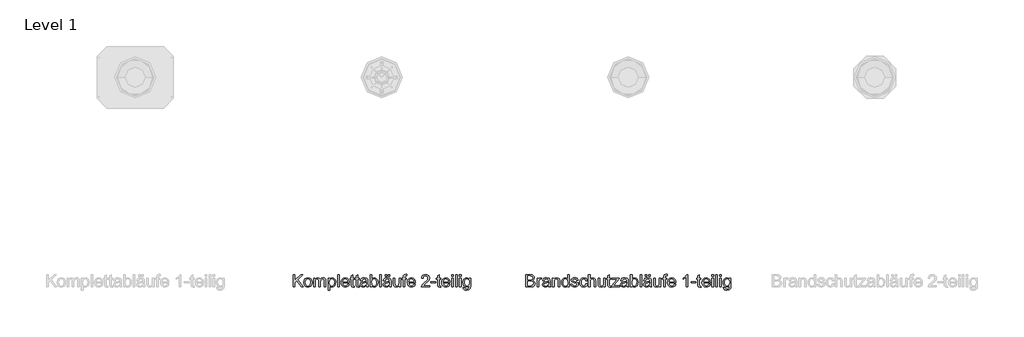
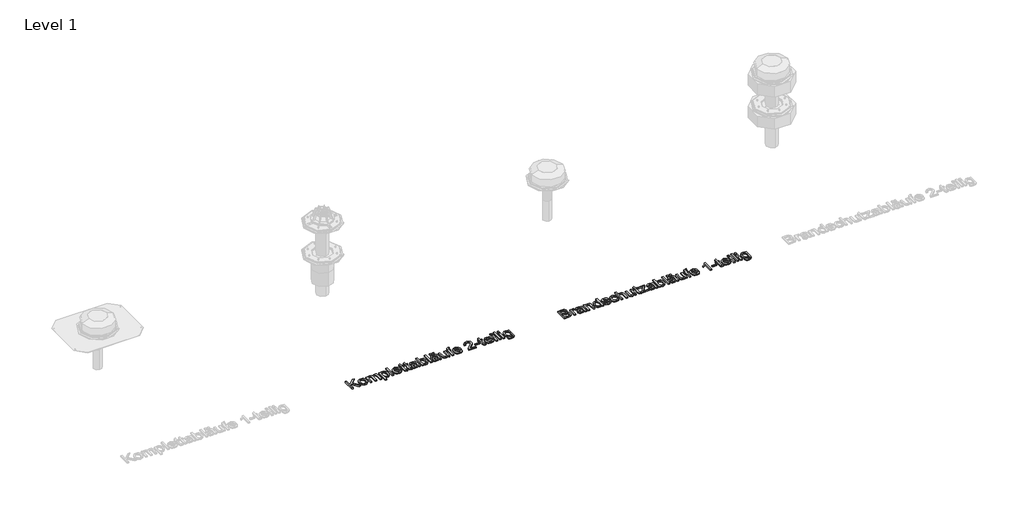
# One storey, part 2 of 4: 2 proxies.
"""IFC4 building model written with IfcOpenShell, lengths in millimetres."""

from ifc_helpers import new_model, si_unit, origin, origin_with_axes, place, context, project, spatial, polyline, outline, extrude, element, save

model = new_model("IFC4")

# Units and contexts
model_context = context("Model", 3, world=origin())
ifc_project = project(units=[si_unit("LENGTHUNIT", "METRE", prefix="MILLI")], contexts=[model_context])

# Site, building, storey
site = spatial("IfcSite", under=ifc_project)
building = spatial("IfcBuilding", under=site)
storey = spatial("IfcBuildingStorey", under=building, Name="Level 1", Elevation=0.0)

# Proxies
placement = place(None, origin())
element("IfcBuildingElementProxy", 1, Name="100mm ACO", ObjectType="100mm ACO", at=placement, inside=storey, context=model_context, shape_type="SweptSolid", body=[
    extrude(outline(polyline([(2862.5, -700.0), (2846.9618056, -700.0), (2810.0405093, -648.8136574), (2793.5185185, -664.8148148), (2793.5185185, -700.0), (2780.5555556, -700.0), (2780.5555556, -600.0), (2793.5185185, -600.0), (2793.5185185, -647.8009259), (2842.8819444, -600.0), (2860.474537, -600.0), (2819.212963, -639.9305556), (2862.5, -700.0)])), origin_with_axes(), (0.0, 0.0, 1.0), 10.0),
    extrude(outline(polyline([(2900.8969907, -625.9259259), (2914.0733507, -628.3203125), (2924.7829861, -635.5034722), (2931.890191, -647.0992477), (2934.2592593, -662.7314815), (2931.6948785, -681.0040509), (2924.0017361, -692.9976852), (2913.0967882, -699.6383102), (2900.8969907, -701.8518519), (2888.3065683, -699.5768229), (2877.5028935, -692.7517361), (2870.0701678, -680.9859664), (2867.5925926, -663.8888889), (2869.9869792, -647.1715856), (2877.1701389, -635.3298611), (2887.890625, -628.2769097), (2900.8969907, -625.9259259)]), holes=[polyline([(2900.8969907, -692.5925926), (2909.7041377, -690.5852141), (2916.1024306, -684.5630787), (2921.2962963, -663.4259259), (2919.8278356, -651.1429398), (2915.4224537, -642.3032407), (2908.8541667, -636.9646991), (2900.8969907, -635.1851852), (2892.7842882, -636.9900174), (2886.2702546, -642.4045139), (2881.9842303, -651.3925058), (2880.5555556, -663.9178241), (2882.0095486, -676.3997396), (2886.3715278, -685.3732639), (2892.9108796, -690.7877604), (2900.8969907, -692.5925926)])]), origin_with_axes(), (0.0, 0.0, 1.0), 10.0),
    extrude(outline(polyline([(3045.3703704, -700.0), (3032.4074074, -700.0), (3032.4074074, -653.2986111), (3031.7563657, -644.4878472), (3028.3709491, -638.0063657), (3019.849537, -635.1851852), (3007.8414352, -640.3356481), (3004.0436921, -647.0920139), (3002.7777778, -657.0601852), (3002.7777778, -700.0), (2989.8148148, -700.0), (2989.8148148, -651.9097222), (2986.6319444, -638.744213), (2977.6041667, -635.1851852), (2965.0752315, -640.7552083), (2961.4076968, -648.7521701), (2960.1851852, -661.6030093), (2960.1851852, -700.0), (2947.2222222, -700.0), (2947.2222222, -627.7777778), (2958.3333333, -627.7777778), (2958.3333333, -637.6736111), (2967.7155671, -628.8628472), (2980.2662037, -625.9259259), (2993.4461806, -629.0943287), (3000.9259259, -638.6284722), (3010.4456019, -629.1015625), (3023.0324074, -625.9259259), (3032.8052662, -627.4450231), (3039.7858796, -632.0023148), (3043.9742477, -639.5978009), (3045.3703704, -650.2314815), (3045.3703704, -700.0)])), origin_with_axes(), (0.0, 0.0, 1.0), 10.0),
    extrude(outline(polyline([(3076.9820602, -636.4872685), (3085.4383681, -628.5662616), (3097.1064815, -625.9259259), (3109.4328704, -628.515625), (3118.8657407, -636.2847222), (3124.8553241, -648.2132523), (3126.8518519, -663.28125), (3124.5949074, -679.1702836), (3117.8240741, -691.4207176), (3107.7690972, -699.2440683), (3095.6597222, -701.8518519), (3085.2864583, -699.7251157), (3077.1990741, -693.3449074), (3076.8518519, -727.7777778), (3063.8888889, -727.7777778), (3063.8888889, -627.7777778), (3076.8518519, -627.7777778), (3076.9820602, -636.4872685)]), holes=[polyline([(3094.2418981, -692.5925926), (3102.0146123, -690.766059), (3108.3188657, -685.2864583), (3112.4963831, -676.1899595), (3113.8888889, -663.5127315), (3112.5470197, -651.4359086), (3108.521412, -642.5202546), (3102.4052373, -637.0189525), (3094.7916667, -635.1851852), (3086.9104456, -637.2287326), (3080.5700231, -643.359375), (3076.3925058, -652.7452257), (3075.0, -664.5543981), (3076.3346354, -676.66739), (3080.3385417, -685.4600694), (3086.4836516, -690.8094618), (3094.2418981, -692.5925926)])]), origin_with_axes(), (0.0, 0.0, 1.0), 10.0),
    extrude(outline(polyline([(3154.6296296, -700.0), (3141.6666667, -700.0), (3141.6666667, -600.0), (3154.6296296, -600.0), (3154.6296296, -700.0)])), origin_with_axes(), (0.0, 0.0, 1.0), 10.0),
    extrude(outline(polyline([(3236.1111111, -666.6666667), (3182.4074074, -666.6666667), (3184.47989, -677.7922454), (3189.1927083, -685.9375), (3195.9743924, -690.9288194), (3204.2534722, -692.5925926), (3215.9288194, -688.9033565), (3223.1481481, -677.7777778), (3236.1111111, -679.2824074), (3231.7346644, -688.9033565), (3224.7974537, -696.0069444), (3215.552662, -700.390625), (3204.2534722, -701.8518519), (3189.666522, -699.3453414), (3178.6603009, -691.8258102), (3171.7484086, -679.9660012), (3169.4444444, -664.4386574), (3171.6652199, -648.900463), (3178.3275463, -636.6030093), (3189.026331, -628.5951968), (3203.3564815, -625.9259259), (3218.5763889, -629.3836806), (3231.0040509, -641.1603009), (3234.8343461, -651.6963252), (3236.1111111, -666.6666667)]), holes=[polyline([(3223.1481481, -657.4074074), (3221.0648148, -647.2511574), (3216.3194444, -640.3935185), (3203.0381944, -635.1851852), (3195.1822917, -636.7332176), (3188.8599537, -641.3773148), (3182.4074074, -657.4074074), (3223.1481481, -657.4074074)])]), origin_with_axes(), (0.0, 0.0, 1.0), 10.0),
    extrude(outline(polyline([(3278.7037037, -701.0127315), (3269.6180556, -701.8518519), (3258.0295139, -698.9728009), (3253.587963, -691.6666667), (3252.7777778, -679.3402778), (3252.7777778, -637.037037), (3243.5185185, -637.037037), (3243.5185185, -627.7777778), (3252.7777778, -627.7777778), (3252.7777778, -609.4328704), (3265.7407407, -601.8518519), (3265.7407407, -627.7777778), (3276.8518519, -627.7777778), (3276.8518519, -637.037037), (3265.7407407, -637.037037), (3265.7407407, -681.9444444), (3266.7824074, -690.162037), (3272.0775463, -692.5925926), (3277.1122685, -692.5925926), (3278.7037037, -701.0127315)])), origin_with_axes(), (0.0, 0.0, 1.0), 10.0),
    extrude(outline(polyline([(3317.5925926, -701.0127315), (3308.5069444, -701.8518519), (3296.9184028, -698.9728009), (3292.4768519, -691.6666667), (3291.6666667, -679.3402778), (3291.6666667, -637.037037), (3282.4074074, -637.037037), (3282.4074074, -627.7777778), (3291.6666667, -627.7777778), (3291.6666667, -609.4328704), (3304.6296296, -601.8518519), (3304.6296296, -627.7777778), (3315.7407407, -627.7777778), (3315.7407407, -637.037037), (3304.6296296, -637.037037), (3304.6296296, -681.9444444), (3305.6712963, -690.162037), (3310.9664352, -692.5925926), (3316.0011574, -692.5925926), (3317.5925926, -701.0127315)])), origin_with_axes(), (0.0, 0.0, 1.0), 10.0),
    extrude(outline(polyline([(3391.6666667, -700.0), (3378.7037037, -700.0), (3375.0, -691.2615741), (3362.5072338, -699.2042824), (3349.0451389, -701.8518519), (3339.0588831, -700.4050926), (3331.4380787, -696.0648148), (3326.6095197, -689.3518519), (3325.0, -680.787037), (3326.5769676, -672.479022), (3331.3078704, -665.7841435), (3339.9377894, -660.8904803), (3353.2118056, -657.9861111), (3364.5543981, -656.25), (3375.0, -653.7037037), (3374.6672454, -645.6741898), (3372.728588, -640.7986111), (3367.5636574, -636.7332176), (3357.9861111, -635.1851852), (3345.9056713, -638.3246528), (3339.8148148, -650.0), (3326.8518519, -648.4085648), (3330.4072627, -638.599537), (3337.0804398, -631.568287), (3346.8641493, -627.3365162), (3359.7511574, -625.9259259), (3379.0075231, -629.7887731), (3386.5596065, -639.1059028), (3387.962963, -653.1539352), (3387.962963, -669.6759259), (3388.5127315, -689.9305556), (3391.6666667, -700.0)]), holes=[polyline([(3375.0, -667.5925926), (3375.0, -662.962963), (3351.7216435, -668.287037), (3341.4026331, -672.3451968), (3337.962963, -680.5844907), (3341.6666667, -689.2071759), (3352.34375, -692.5925926), (3368.1568287, -686.9212963), (3373.2892072, -679.2534722), (3375.0, -667.5925926)])]), origin_with_axes(), (0.0, 0.0, 1.0), 10.0),
    extrude(outline(polyline([(3419.6180556, -634.9247685), (3427.9803241, -628.1756366), (3439.0625, -625.9259259), (3451.4865451, -628.4722222), (3461.1545139, -636.1111111), (3467.3719618, -647.8587963), (3469.4444444, -662.7314815), (3467.1657986, -679.4668692), (3460.3298611, -691.7679398), (3450.4412616, -699.3308738), (3439.0046296, -701.8518519), (3427.9875579, -699.3778935), (3419.7048611, -691.9560185), (3419.4444444, -700.0), (3406.4814815, -700.0), (3406.4814815, -600.0), (3419.4444444, -600.0), (3419.6180556, -634.9247685)]), holes=[polyline([(3437.7893519, -692.5925926), (3445.20761, -690.7009549), (3451.2008102, -685.0260417), (3455.1613137, -675.9295428), (3456.4814815, -663.7731481), (3451.6203704, -642.896412), (3445.8333333, -637.1129919), (3438.1944444, -635.1851852), (3430.5700231, -637.1744792), (3424.5949074, -643.1423611), (3419.4444444, -663.28125), (3421.5856481, -680.2372685), (3428.0381944, -688.9322917), (3437.7893519, -692.5925926)])]), origin_with_axes(), (0.0, 0.0, 1.0), 10.0),
    extrude(outline(polyline([(3497.2222222, -700.0), (3484.2592593, -700.0), (3484.2592593, -600.0), (3497.2222222, -600.0), (3497.2222222, -700.0)])), origin_with_axes(), (0.0, 0.0, 1.0), 10.0),
    extrude(outline(polyline([(3578.7037037, -700.0), (3565.7407407, -700.0), (3562.037037, -691.2615741), (3549.5442708, -699.2042824), (3536.0821759, -701.8518519), (3526.0959201, -700.4050926), (3518.4751157, -696.0648148), (3513.6465567, -689.3518519), (3512.037037, -680.787037), (3513.6140046, -672.479022), (3518.3449074, -665.7841435), (3526.9748264, -660.8904803), (3540.2488426, -657.9861111), (3551.5914352, -656.25), (3562.037037, -653.7037037), (3561.7042824, -645.6741898), (3559.765625, -640.7986111), (3554.6006944, -636.7332176), (3545.0231481, -635.1851852), (3532.9427083, -638.3246528), (3526.8518519, -650.0), (3513.8888889, -648.4085648), (3517.4442998, -638.599537), (3524.1174769, -631.568287), (3533.9011863, -627.3365162), (3546.7881944, -625.9259259), (3566.0445602, -629.7887731), (3573.5966435, -639.1059028), (3575.0, -653.1539352), (3575.0, -669.6759259), (3575.5497685, -689.9305556), (3578.7037037, -700.0)]), holes=[polyline([(3562.037037, -667.5925926), (3562.037037, -662.962963), (3538.7586806, -668.287037), (3528.4396701, -672.3451968), (3525.0, -680.5844907), (3528.7037037, -689.2071759), (3539.380787, -692.5925926), (3555.1938657, -686.9212963), (3560.3262442, -679.2534722), (3562.037037, -667.5925926)])]), origin_with_axes(), (0.0, 0.0, 1.0), 10.0),
    extrude(outline(polyline([(3539.8148148, -614.8148148), (3526.8518519, -614.8148148), (3526.8518519, -600.0), (3539.8148148, -600.0), (3539.8148148, -614.8148148)])), origin_with_axes(), (0.0, 0.0, 1.0), 10.0),
    extrude(outline(polyline([(3565.7407407, -614.8148148), (3552.7777778, -614.8148148), (3552.7777778, -600.0), (3565.7407407, -600.0), (3565.7407407, -614.8148148)])), origin_with_axes(), (0.0, 0.0, 1.0), 10.0),
    extrude(outline(polyline([(3652.7777778, -700.0), (3641.6666667, -700.0), (3641.6666667, -689.4965278), (3631.4236111, -698.7630208), (3618.4606481, -701.8518519), (3604.3402778, -698.3362269), (3595.6886574, -688.6574074), (3593.5185185, -672.65625), (3593.5185185, -627.7777778), (3606.4814815, -627.7777778), (3606.4814815, -668.75), (3607.3784722, -682.8414352), (3612.0659722, -689.84375), (3621.09375, -692.5925926), (3633.8396991, -687.6736111), (3638.3210359, -680.1215278), (3639.8148148, -667.3032407), (3639.8148148, -627.7777778), (3652.7777778, -627.7777778), (3652.7777778, -700.0)])), origin_with_axes(), (0.0, 0.0, 1.0), 10.0),
    extrude(outline(polyline([(3704.6296296, -599.1030093), (3703.0381944, -607.4074074), (3696.7303241, -607.4074074), (3690.4224537, -609.5341435), (3687.962963, -620.0520833), (3687.962963, -627.7777778), (3699.0740741, -627.7777778), (3699.0740741, -637.037037), (3687.962963, -637.037037), (3687.962963, -700.0), (3675.0, -700.0), (3675.0, -637.037037), (3663.8888889, -637.037037), (3663.8888889, -627.7777778), (3675.0, -627.7777778), (3675.0, -619.849537), (3675.9693287, -609.8668981), (3681.0763889, -601.7650463), (3693.8368056, -598.1481481), (3704.6296296, -599.1030093)])), origin_with_axes(), (0.0, 0.0, 1.0), 10.0),
    extrude(outline(polyline([(3773.1481481, -666.6666667), (3719.4444444, -666.6666667), (3721.5169271, -677.7922454), (3726.2297454, -685.9375), (3733.0114294, -690.9288194), (3741.2905093, -692.5925926), (3752.9658565, -688.9033565), (3760.1851852, -677.7777778), (3773.1481481, -679.2824074), (3768.7717014, -688.9033565), (3761.8344907, -696.0069444), (3752.5896991, -700.390625), (3741.2905093, -701.8518519), (3726.703559, -699.3453414), (3715.697338, -691.8258102), (3708.7854456, -679.9660012), (3706.4814815, -664.4386574), (3708.7022569, -648.900463), (3715.3645833, -636.6030093), (3726.0633681, -628.5951968), (3740.3935185, -625.9259259), (3755.6134259, -629.3836806), (3768.041088, -641.1603009), (3771.8713831, -651.6963252), (3773.1481481, -666.6666667)]), holes=[polyline([(3760.1851852, -657.4074074), (3758.1018519, -647.2511574), (3753.3564815, -640.3935185), (3740.0752315, -635.1851852), (3732.2193287, -636.7332176), (3725.8969907, -641.3773148), (3719.4444444, -657.4074074), (3760.1851852, -657.4074074)])]), origin_with_axes(), (0.0, 0.0, 1.0), 10.0),
    extrude(outline(polyline([(3887.962963, -700.0), (3821.2962963, -700.0), (3827.2569444, -684.4039352), (3849.2766204, -662.7893519), (3867.0428241, -645.4571759), (3873.010706, -636.4293981), (3875.0, -627.34375), (3869.5746528, -614.380787), (3855.8738426, -609.2592593), (3841.8402778, -614.3663194), (3837.572338, -620.7356771), (3836.1111111, -629.6296296), (3823.1481481, -628.2407407), (3826.2876157, -616.1385995), (3833.3333333, -607.2627315), (3843.5474537, -601.8156829), (3856.1921296, -600.0), (3869.5493345, -602.0869502), (3879.5862269, -608.3478009), (3885.8687789, -617.5600405), (3887.962963, -628.5011574), (3886.2123843, -638.4042245), (3880.9606481, -648.4375), (3853.5300926, -675.9548611), (3837.962963, -690.7407407), (3887.962963, -690.7407407), (3887.962963, -700.0)])), origin_with_axes(), (0.0, 0.0, 1.0), 10.0),
    extrude(outline(polyline([(3937.962963, -666.6666667), (3899.0740741, -666.6666667), (3899.0740741, -657.4074074), (3937.962963, -657.4074074), (3937.962963, -666.6666667)])), origin_with_axes(), (0.0, 0.0, 1.0), 10.0),
    extrude(outline(polyline([(3978.7037037, -701.0127315), (3969.6180556, -701.8518519), (3958.0295139, -698.9728009), (3953.587963, -691.6666667), (3952.7777778, -679.3402778), (3952.7777778, -637.037037), (3943.5185185, -637.037037), (3943.5185185, -627.7777778), (3952.7777778, -627.7777778), (3952.7777778, -609.4328704), (3965.7407407, -601.8518519), (3965.7407407, -627.7777778), (3976.8518519, -627.7777778), (3976.8518519, -637.037037), (3965.7407407, -637.037037), (3965.7407407, -681.9444444), (3966.7824074, -690.162037), (3972.0775463, -692.5925926), (3977.1122685, -692.5925926), (3978.7037037, -701.0127315)])), origin_with_axes(), (0.0, 0.0, 1.0), 10.0),
    extrude(outline(polyline([(4052.7777778, -666.6666667), (3999.0740741, -666.6666667), (4001.1465567, -677.7922454), (4005.859375, -685.9375), (4012.641059, -690.9288194), (4020.9201389, -692.5925926), (4032.5954861, -688.9033565), (4039.8148148, -677.7777778), (4052.7777778, -679.2824074), (4048.401331, -688.9033565), (4041.4641204, -696.0069444), (4032.2193287, -700.390625), (4020.9201389, -701.8518519), (4006.3331887, -699.3453414), (3995.3269676, -691.8258102), (3988.4150752, -679.9660012), (3986.1111111, -664.4386574), (3988.3318866, -648.900463), (3994.994213, -636.6030093), (4005.6929977, -628.5951968), (4020.0231481, -625.9259259), (4035.2430556, -629.3836806), (4047.6707176, -641.1603009), (4051.5010127, -651.6963252), (4052.7777778, -666.6666667)]), holes=[polyline([(4039.8148148, -657.4074074), (4037.7314815, -647.2511574), (4032.9861111, -640.3935185), (4019.7048611, -635.1851852), (4011.8489583, -636.7332176), (4005.5266204, -641.3773148), (3999.0740741, -657.4074074), (4039.8148148, -657.4074074)])]), origin_with_axes(), (0.0, 0.0, 1.0), 10.0),
    extrude(outline(polyline([(4080.5555556, -612.962963), (4067.5925926, -612.962963), (4067.5925926, -600.0), (4080.5555556, -600.0), (4080.5555556, -612.962963)])), origin_with_axes(), (0.0, 0.0, 1.0), 10.0),
    extrude(outline(polyline([(4080.5555556, -700.0), (4067.5925926, -700.0), (4067.5925926, -627.7777778), (4080.5555556, -627.7777778), (4080.5555556, -700.0)])), origin_with_axes(), (0.0, 0.0, 1.0), 10.0),
    extrude(outline(polyline([(4112.037037, -700.0), (4099.0740741, -700.0), (4099.0740741, -600.0), (4112.037037, -600.0), (4112.037037, -700.0)])), origin_with_axes(), (0.0, 0.0, 1.0), 10.0),
    extrude(outline(polyline([(4143.5185185, -612.962963), (4130.5555556, -612.962963), (4130.5555556, -600.0), (4143.5185185, -600.0), (4143.5185185, -612.962963)])), origin_with_axes(), (0.0, 0.0, 1.0), 10.0),
    extrude(outline(polyline([(4143.5185185, -700.0), (4130.5555556, -700.0), (4130.5555556, -627.7777778), (4143.5185185, -627.7777778), (4143.5185185, -700.0)])), origin_with_axes(), (0.0, 0.0, 1.0), 10.0),
    extrude(outline(polyline([(4221.2962963, -689.3518519), (4218.2436343, -711.9936343), (4207.3784722, -723.6255787), (4188.7152778, -727.7777778), (4177.4992766, -726.3708044), (4168.3304398, -722.1498843), (4162.2214988, -714.7243924), (4160.1851852, -703.7037037), (4173.1481481, -705.7581019), (4177.7199074, -715.3211806), (4188.9178241, -718.5185185), (4202.2280093, -714.8292824), (4207.3929398, -705.8449074), (4208.3333333, -691.2326389), (4199.5587384, -697.8081597), (4188.744213, -700.0), (4176.3527199, -697.3885995), (4166.6666667, -689.5543981), (4160.4166667, -677.7416088), (4158.3333333, -663.1944444), (4160.3153935, -648.5532407), (4166.2615741, -636.5740741), (4175.708912, -628.587963), (4188.1944444, -625.9259259), (4199.2693866, -628.3058449), (4208.0729167, -635.4456019), (4208.3333333, -627.7777778), (4221.2962963, -627.7777778), (4221.2962963, -689.3518519)]), holes=[polyline([(4190.6828704, -690.7407407), (4197.8949653, -689.134838), (4204.2534722, -684.3171296), (4208.7022569, -675.7233796), (4210.1851852, -662.7893519), (4208.770978, -651.0018808), (4204.5283565, -642.3177083), (4198.2024016, -636.968316), (4190.5381944, -635.1851852), (4182.8161169, -637.0117187), (4176.6637731, -642.4913194), (4172.6381655, -651.1465567), (4171.2962963, -662.5), (4172.7032697, -675.2170139), (4176.9241898, -683.9699074), (4183.1778067, -689.0480324), (4190.6828704, -690.7407407)])]), origin_with_axes(), (0.0, 0.0, 1.0), 10.0),
])
element("IfcBuildingElementProxy", 2, Name="100mm ACO", ObjectType="100mm ACO", at=placement, inside=storey, context=model_context, shape_type="SweptSolid", body=[
    extrude(outline(polyline([(4724.21875, -647.193287), (4738.7152778, -656.4236111), (4743.5185185, -671.1516204), (4739.380787, -686.4583333), (4727.6186343, -696.7158565), (4706.9444444, -700.0), (4669.4444444, -700.0), (4669.4444444, -600.0), (4705.8159722, -600.0), (4720.8658854, -601.9965278), (4730.7146991, -607.9861111), (4736.150897, -616.4134838), (4737.962963, -625.7233796), (4734.5486111, -637.9340278), (4724.21875, -647.193287)]), holes=[polyline([(4682.4074074, -688.8888889), (4707.0601852, -688.8888889), (4718.2617187, -687.7206308), (4725.4195602, -684.2158565), (4730.5555556, -671.2962963), (4729.1883681, -663.9069734), (4725.0868056, -658.3478009), (4717.4189815, -654.864728), (4705.3530093, -653.7037037), (4682.4074074, -653.7037037), (4682.4074074, -688.8888889)]), polyline([(4682.4074074, -642.5925926), (4703.2118056, -642.5925926), (4713.9756944, -641.8113426), (4721.6579861, -637.6591435), (4725.0, -627.1990741), (4721.6290509, -616.2181713), (4713.5850694, -611.8923611), (4701.5914352, -611.1111111), (4682.4074074, -611.1111111), (4682.4074074, -642.5925926)])]), origin_with_axes(), (0.0, 0.0, 1.0), 10.0),
    extrude(outline(polyline([(4799.0740741, -628.7615741), (4795.0231481, -637.037037), (4786.5162037, -635.1851852), (4780.7219329, -636.8127894), (4776.5335648, -641.6956019), (4773.1481481, -659.9247685), (4773.1481481, -700.0), (4760.1851852, -700.0), (4760.1851852, -627.7777778), (4771.2962963, -627.7777778), (4771.2962963, -638.4837963), (4778.2262731, -629.0653935), (4786.6608796, -625.9259259), (4799.0740741, -628.7615741)])), origin_with_axes(), (0.0, 0.0, 1.0), 10.0),
    extrude(outline(polyline([(4869.4444444, -700.0), (4856.4814815, -700.0), (4852.7777778, -691.2615741), (4840.2850116, -699.2042824), (4826.8229167, -701.8518519), (4816.8366609, -700.4050926), (4809.2158565, -696.0648148), (4804.3872975, -689.3518519), (4802.7777778, -680.787037), (4804.3547454, -672.479022), (4809.0856481, -665.7841435), (4817.7155671, -660.8904803), (4830.9895833, -657.9861111), (4842.3321759, -656.25), (4852.7777778, -653.7037037), (4852.4450231, -645.6741898), (4850.5063657, -640.7986111), (4845.3414352, -636.7332176), (4835.7638889, -635.1851852), (4823.6834491, -638.3246528), (4817.5925926, -650.0), (4804.6296296, -648.4085648), (4808.1850405, -638.599537), (4814.8582176, -631.568287), (4824.6419271, -627.3365162), (4837.5289352, -625.9259259), (4856.7853009, -629.7887731), (4864.3373843, -639.1059028), (4865.7407407, -653.1539352), (4865.7407407, -669.6759259), (4866.2905093, -689.9305556), (4869.4444444, -700.0)]), holes=[polyline([(4852.7777778, -667.5925926), (4852.7777778, -662.962963), (4829.4994213, -668.287037), (4819.1804109, -672.3451968), (4815.7407407, -680.5844907), (4819.4444444, -689.2071759), (4830.1215278, -692.5925926), (4845.9346065, -686.9212963), (4851.066985, -679.2534722), (4852.7777778, -667.5925926)])]), origin_with_axes(), (0.0, 0.0, 1.0), 10.0),
    extrude(outline(polyline([(4943.5185185, -700.0), (4930.5555556, -700.0), (4930.5555556, -655.0347222), (4926.6927083, -639.4386574), (4915.943287, -635.1851852), (4905.9172454, -637.9050926), (4899.2042824, -645.5729167), (4897.2222222, -659.5775463), (4897.2222222, -700.0), (4884.2592593, -700.0), (4884.2592593, -627.7777778), (4895.3703704, -627.7777778), (4895.3703704, -637.818287), (4905.2662037, -628.8917824), (4918.5185185, -625.9259259), (4929.8900463, -627.9803241), (4938.6863426, -634.1290509), (4942.6938657, -642.8674769), (4943.5185185, -655.4108796), (4943.5185185, -700.0)])), origin_with_axes(), (0.0, 0.0, 1.0), 10.0),
    extrude(outline(polyline([(5021.2962963, -700.0), (5008.3333333, -700.0), (5008.3333333, -691.8402778), (4999.9782986, -699.3489583), (4988.599537, -701.8518519), (4976.7324942, -699.2115162), (4966.9994213, -691.2905093), (4960.4998553, -679.1594329), (4958.3333333, -663.8888889), (4960.4094329, -648.1481481), (4966.6377315, -636.1111111), (4976.2731481, -628.4722222), (4988.5706019, -625.9259259), (4999.8553241, -628.2118056), (5008.0729167, -635.0694444), (5008.3333333, -600.0), (5021.2962963, -600.0), (5021.2962963, -700.0)]), holes=[polyline([(4990.1041667, -692.5925926), (4997.1571181, -690.8854167), (5003.0381944, -685.7638889), (5007.0095486, -677.1701389), (5008.3333333, -665.0462963), (5003.4866898, -643.287037), (4997.5875289, -637.2106481), (4989.5833333, -635.1851852), (4981.6370081, -637.1672454), (4975.9114583, -643.1134259), (4971.2962963, -663.9178241), (4973.7847222, -679.6730324), (4980.7291667, -689.3518519), (4990.1041667, -692.5925926)])]), origin_with_axes(), (0.0, 0.0, 1.0), 10.0),
    extrude(outline(polyline([(5080.5555556, -648.1481481), (5075.7667824, -638.4259259), (5064.6990741, -635.1851852), (5053.3854167, -637.962963), (5049.0740741, -646.0358796), (5051.9241898, -653.1828704), (5065.3645833, -657.0601852), (5083.0873843, -661.2268519), (5092.1296296, -667.5491898), (5095.3703704, -678.8773148), (5093.359375, -687.8074363), (5087.3263889, -695.2112269), (5077.9296875, -700.1916956), (5065.8275463, -701.8518519), (5053.3528646, -700.4557292), (5043.9380787, -696.2673611), (5037.5759549, -689.2939815), (5034.2592593, -679.5428241), (5047.2222222, -677.7777778), (5052.8211806, -688.9033565), (5065.8275463, -692.5925926), (5078.125, -688.7586806), (5082.4074074, -679.4270833), (5080.4832176, -673.4519676), (5075.6799769, -670.0810185), (5062.0949074, -667.1875), (5041.1603009, -659.375), (5036.1111111, -646.7881944), (5037.9810475, -638.5018808), (5043.5908565, -631.8142361), (5052.3618345, -627.3980035), (5063.7152778, -625.9259259), (5075.6474248, -627.2135417), (5084.5920139, -631.0763889), (5090.5490451, -637.5072338), (5093.5185185, -646.4988426), (5080.5555556, -648.1481481)])), origin_with_axes(), (0.0, 0.0, 1.0), 10.0),
    extrude(outline(polyline([(5169.4444444, -675.5497685), (5165.4152199, -687.3553241), (5158.2465278, -695.5150463), (5148.9221644, -700.2676505), (5138.4259259, -701.8518519), (5124.1102431, -699.2621528), (5113.4548611, -691.4930556), (5106.8359375, -679.4487847), (5104.6296296, -664.0335648), (5109.6643519, -641.3483796), (5122.265625, -629.3836806), (5138.1655093, -625.9259259), (5157.6244213, -631.5827546), (5164.1601562, -638.566985), (5167.5925926, -648.2060185), (5154.6296296, -650.0), (5148.7268519, -638.9033565), (5138.3101852, -635.1851852), (5129.3547454, -637.0695891), (5122.8587963, -642.7228009), (5118.9091435, -651.7541956), (5117.5925926, -663.7731481), (5118.9127604, -676.0018808), (5122.8732639, -685.083912), (5129.3221933, -690.7154225), (5138.1076389, -692.5925926), (5150.708912, -687.962963), (5156.4814815, -674.0740741), (5169.4444444, -675.5497685)])), origin_with_axes(), (0.0, 0.0, 1.0), 10.0),
    extrude(outline(polyline([(5236.1111111, -700.0), (5223.1481481, -700.0), (5223.1481481, -653.2986111), (5219.458912, -639.7135417), (5208.4490741, -635.1851852), (5195.5150463, -640.5237269), (5191.2398727, -647.9564525), (5189.8148148, -659.5775463), (5189.8148148, -700.0), (5176.8518519, -700.0), (5176.8518519, -600.0), (5189.8148148, -600.0), (5189.8148148, -635.8217593), (5199.5153356, -628.3998843), (5211.3715278, -625.9259259), (5224.6527778, -628.7905093), (5233.5503472, -637.6012731), (5236.1111111, -654.1087963), (5236.1111111, -700.0)])), origin_with_axes(), (0.0, 0.0, 1.0), 10.0),
    extrude(outline(polyline([(5313.8888889, -700.0), (5302.7777778, -700.0), (5302.7777778, -689.4965278), (5292.5347222, -698.7630208), (5279.5717593, -701.8518519), (5265.4513889, -698.3362269), (5256.7997685, -688.6574074), (5254.6296296, -672.65625), (5254.6296296, -627.7777778), (5267.5925926, -627.7777778), (5267.5925926, -668.75), (5268.4895833, -682.8414352), (5273.1770833, -689.84375), (5282.2048611, -692.5925926), (5294.9508102, -687.6736111), (5299.432147, -680.1215278), (5300.9259259, -667.3032407), (5300.9259259, -627.7777778), (5313.8888889, -627.7777778), (5313.8888889, -700.0)])), origin_with_axes(), (0.0, 0.0, 1.0), 10.0),
    extrude(outline(polyline([(5360.1851852, -701.0127315), (5351.099537, -701.8518519), (5339.5109954, -698.9728009), (5335.0694444, -691.6666667), (5334.2592593, -679.3402778), (5334.2592593, -637.037037), (5325.0, -637.037037), (5325.0, -627.7777778), (5334.2592593, -627.7777778), (5334.2592593, -609.4328704), (5347.2222222, -601.8518519), (5347.2222222, -627.7777778), (5358.3333333, -627.7777778), (5358.3333333, -637.037037), (5347.2222222, -637.037037), (5347.2222222, -681.9444444), (5348.2638889, -690.162037), (5353.5590278, -692.5925926), (5358.59375, -692.5925926), (5360.1851852, -701.0127315)])), origin_with_axes(), (0.0, 0.0, 1.0), 10.0),
    extrude(outline(polyline([(5428.7037037, -700.0), (5365.7407407, -700.0), (5365.7407407, -691.40625), (5411.7476852, -636.5451389), (5397.6851852, -637.037037), (5367.5925926, -637.037037), (5367.5925926, -627.7777778), (5426.8518519, -627.7777778), (5426.8518519, -635.0983796), (5387.2685185, -682.5520833), (5381.2210648, -689.4675926), (5379.6296296, -691.3773148), (5395.1099537, -690.7407407), (5428.7037037, -690.7407407), (5428.7037037, -700.0)])), origin_with_axes(), (0.0, 0.0, 1.0), 10.0),
    extrude(outline(polyline([(5502.7777778, -700.0), (5489.8148148, -700.0), (5486.1111111, -691.2615741), (5473.6183449, -699.2042824), (5460.15625, -701.8518519), (5450.1699942, -700.4050926), (5442.5491898, -696.0648148), (5437.7206308, -689.3518519), (5436.1111111, -680.787037), (5437.6880787, -672.479022), (5442.4189815, -665.7841435), (5451.0489005, -660.8904803), (5464.3229167, -657.9861111), (5475.6655093, -656.25), (5486.1111111, -653.7037037), (5485.7783565, -645.6741898), (5483.8396991, -640.7986111), (5478.6747685, -636.7332176), (5469.0972222, -635.1851852), (5457.0167824, -638.3246528), (5450.9259259, -650.0), (5437.962963, -648.4085648), (5441.5183738, -638.599537), (5448.1915509, -631.568287), (5457.9752604, -627.3365162), (5470.8622685, -625.9259259), (5490.1186343, -629.7887731), (5497.6707176, -639.1059028), (5499.0740741, -653.1539352), (5499.0740741, -669.6759259), (5499.6238426, -689.9305556), (5502.7777778, -700.0)]), holes=[polyline([(5486.1111111, -667.5925926), (5486.1111111, -662.962963), (5462.8327546, -668.287037), (5452.5137442, -672.3451968), (5449.0740741, -680.5844907), (5452.7777778, -689.2071759), (5463.4548611, -692.5925926), (5479.2679398, -686.9212963), (5484.4003183, -679.2534722), (5486.1111111, -667.5925926)])]), origin_with_axes(), (0.0, 0.0, 1.0), 10.0),
    extrude(outline(polyline([(5530.7291667, -634.9247685), (5539.0914352, -628.1756366), (5550.1736111, -625.9259259), (5562.5976562, -628.4722222), (5572.265625, -636.1111111), (5578.4830729, -647.8587963), (5580.5555556, -662.7314815), (5578.2769097, -679.4668692), (5571.4409722, -691.7679398), (5561.5523727, -699.3308738), (5550.1157407, -701.8518519), (5539.098669, -699.3778935), (5530.8159722, -691.9560185), (5530.5555556, -700.0), (5517.5925926, -700.0), (5517.5925926, -600.0), (5530.5555556, -600.0), (5530.7291667, -634.9247685)]), holes=[polyline([(5548.900463, -692.5925926), (5556.3187211, -690.7009549), (5562.3119213, -685.0260417), (5566.2724248, -675.9295428), (5567.5925926, -663.7731481), (5562.7314815, -642.896412), (5556.9444444, -637.1129919), (5549.3055556, -635.1851852), (5541.6811343, -637.1744792), (5535.7060185, -643.1423611), (5530.5555556, -663.28125), (5532.6967593, -680.2372685), (5539.1493056, -688.9322917), (5548.900463, -692.5925926)])]), origin_with_axes(), (0.0, 0.0, 1.0), 10.0),
    extrude(outline(polyline([(5608.3333333, -700.0), (5595.3703704, -700.0), (5595.3703704, -600.0), (5608.3333333, -600.0), (5608.3333333, -700.0)])), origin_with_axes(), (0.0, 0.0, 1.0), 10.0),
    extrude(outline(polyline([(5676.8518519, -614.8148148), (5663.8888889, -614.8148148), (5663.8888889, -600.0), (5676.8518519, -600.0), (5676.8518519, -614.8148148)])), origin_with_axes(), (0.0, 0.0, 1.0), 10.0),
    extrude(outline(polyline([(5650.9259259, -614.8148148), (5637.962963, -614.8148148), (5637.962963, -600.0), (5650.9259259, -600.0), (5650.9259259, -614.8148148)])), origin_with_axes(), (0.0, 0.0, 1.0), 10.0),
    extrude(outline(polyline([(5689.8148148, -700.0), (5676.8518519, -700.0), (5673.1481481, -691.2615741), (5660.6553819, -699.2042824), (5647.193287, -701.8518519), (5637.2070312, -700.4050926), (5629.5862269, -696.0648148), (5624.7576678, -689.3518519), (5623.1481481, -680.787037), (5624.7251157, -672.479022), (5629.4560185, -665.7841435), (5638.0859375, -660.8904803), (5651.3599537, -657.9861111), (5662.7025463, -656.25), (5673.1481481, -653.7037037), (5672.8153935, -645.6741898), (5670.8767361, -640.7986111), (5665.7118056, -636.7332176), (5656.1342593, -635.1851852), (5644.0538194, -638.3246528), (5637.962963, -650.0), (5625.0, -648.4085648), (5628.5554109, -638.599537), (5635.228588, -631.568287), (5645.0122975, -627.3365162), (5657.8993056, -625.9259259), (5677.1556713, -629.7887731), (5684.7077546, -639.1059028), (5686.1111111, -653.1539352), (5686.1111111, -669.6759259), (5686.6608796, -689.9305556), (5689.8148148, -700.0)]), holes=[polyline([(5673.1481481, -667.5925926), (5673.1481481, -662.962963), (5649.8697917, -668.287037), (5639.5507812, -672.3451968), (5636.1111111, -680.5844907), (5639.8148148, -689.2071759), (5650.4918981, -692.5925926), (5666.3049769, -686.9212963), (5671.4373553, -679.2534722), (5673.1481481, -667.5925926)])]), origin_with_axes(), (0.0, 0.0, 1.0), 10.0),
    extrude(outline(polyline([(5763.8888889, -700.0), (5752.7777778, -700.0), (5752.7777778, -689.4965278), (5742.5347222, -698.7630208), (5729.5717593, -701.8518519), (5715.4513889, -698.3362269), (5706.7997685, -688.6574074), (5704.6296296, -672.65625), (5704.6296296, -627.7777778), (5717.5925926, -627.7777778), (5717.5925926, -668.75), (5718.4895833, -682.8414352), (5723.1770833, -689.84375), (5732.2048611, -692.5925926), (5744.9508102, -687.6736111), (5749.432147, -680.1215278), (5750.9259259, -667.3032407), (5750.9259259, -627.7777778), (5763.8888889, -627.7777778), (5763.8888889, -700.0)])), origin_with_axes(), (0.0, 0.0, 1.0), 10.0),
    extrude(outline(polyline([(5815.7407407, -599.1030093), (5814.1493056, -607.4074074), (5807.8414352, -607.4074074), (5801.5335648, -609.5341435), (5799.0740741, -620.0520833), (5799.0740741, -627.7777778), (5810.1851852, -627.7777778), (5810.1851852, -637.037037), (5799.0740741, -637.037037), (5799.0740741, -700.0), (5786.1111111, -700.0), (5786.1111111, -637.037037), (5775.0, -637.037037), (5775.0, -627.7777778), (5786.1111111, -627.7777778), (5786.1111111, -619.849537), (5787.0804398, -609.8668981), (5792.1875, -601.7650463), (5804.9479167, -598.1481481), (5815.7407407, -599.1030093)])), origin_with_axes(), (0.0, 0.0, 1.0), 10.0),
    extrude(outline(polyline([(5884.2592593, -666.6666667), (5830.5555556, -666.6666667), (5832.6280382, -677.7922454), (5837.3408565, -685.9375), (5844.1225405, -690.9288194), (5852.4016204, -692.5925926), (5864.0769676, -688.9033565), (5871.2962963, -677.7777778), (5884.2592593, -679.2824074), (5879.8828125, -688.9033565), (5872.9456019, -696.0069444), (5863.7008102, -700.390625), (5852.4016204, -701.8518519), (5837.8146701, -699.3453414), (5826.8084491, -691.8258102), (5819.8965567, -679.9660012), (5817.5925926, -664.4386574), (5819.8133681, -648.900463), (5826.4756944, -636.6030093), (5837.1744792, -628.5951968), (5851.5046296, -625.9259259), (5866.724537, -629.3836806), (5879.1521991, -641.1603009), (5882.9824942, -651.6963252), (5884.2592593, -666.6666667)]), holes=[polyline([(5871.2962963, -657.4074074), (5869.212963, -647.2511574), (5864.4675926, -640.3935185), (5851.1863426, -635.1851852), (5843.3304398, -636.7332176), (5837.0081019, -641.3773148), (5830.5555556, -657.4074074), (5871.2962963, -657.4074074)])]), origin_with_axes(), (0.0, 0.0, 1.0), 10.0),
    extrude(outline(polyline([(5982.4074074, -700.0), (5969.4444444, -700.0), (5969.4444444, -622.2222222), (5945.3703704, -637.037037), (5945.3703704, -627.7777778), (5963.6429398, -616.0590278), (5975.0, -601.8518519), (5982.4074074, -601.8518519), (5982.4074074, -700.0)])), origin_with_axes(), (0.0, 0.0, 1.0), 10.0),
    extrude(outline(polyline([(6049.0740741, -666.6666667), (6010.1851852, -666.6666667), (6010.1851852, -657.4074074), (6049.0740741, -657.4074074), (6049.0740741, -666.6666667)])), origin_with_axes(), (0.0, 0.0, 1.0), 10.0),
    extrude(outline(polyline([(6089.8148148, -701.0127315), (6080.7291667, -701.8518519), (6069.140625, -698.9728009), (6064.6990741, -691.6666667), (6063.8888889, -679.3402778), (6063.8888889, -637.037037), (6054.6296296, -637.037037), (6054.6296296, -627.7777778), (6063.8888889, -627.7777778), (6063.8888889, -609.4328704), (6076.8518519, -601.8518519), (6076.8518519, -627.7777778), (6087.962963, -627.7777778), (6087.962963, -637.037037), (6076.8518519, -637.037037), (6076.8518519, -681.9444444), (6077.8935185, -690.162037), (6083.1886574, -692.5925926), (6088.2233796, -692.5925926), (6089.8148148, -701.0127315)])), origin_with_axes(), (0.0, 0.0, 1.0), 10.0),
    extrude(outline(polyline([(6163.8888889, -666.6666667), (6110.1851852, -666.6666667), (6112.2576678, -677.7922454), (6116.9704861, -685.9375), (6123.7521701, -690.9288194), (6132.03125, -692.5925926), (6143.7065972, -688.9033565), (6150.9259259, -677.7777778), (6163.8888889, -679.2824074), (6159.5124421, -688.9033565), (6152.5752315, -696.0069444), (6143.3304398, -700.390625), (6132.03125, -701.8518519), (6117.4442998, -699.3453414), (6106.4380787, -691.8258102), (6099.5261863, -679.9660012), (6097.2222222, -664.4386574), (6099.4429977, -648.900463), (6106.1053241, -636.6030093), (6116.8041088, -628.5951968), (6131.1342593, -625.9259259), (6146.3541667, -629.3836806), (6158.7818287, -641.1603009), (6162.6121238, -651.6963252), (6163.8888889, -666.6666667)]), holes=[polyline([(6150.9259259, -657.4074074), (6148.8425926, -647.2511574), (6144.0972222, -640.3935185), (6130.8159722, -635.1851852), (6122.9600694, -636.7332176), (6116.6377315, -641.3773148), (6110.1851852, -657.4074074), (6150.9259259, -657.4074074)])]), origin_with_axes(), (0.0, 0.0, 1.0), 10.0),
    extrude(outline(polyline([(6191.6666667, -612.962963), (6178.7037037, -612.962963), (6178.7037037, -600.0), (6191.6666667, -600.0), (6191.6666667, -612.962963)])), origin_with_axes(), (0.0, 0.0, 1.0), 10.0),
    extrude(outline(polyline([(6191.6666667, -700.0), (6178.7037037, -700.0), (6178.7037037, -627.7777778), (6191.6666667, -627.7777778), (6191.6666667, -700.0)])), origin_with_axes(), (0.0, 0.0, 1.0), 10.0),
    extrude(outline(polyline([(6223.1481481, -700.0), (6210.1851852, -700.0), (6210.1851852, -600.0), (6223.1481481, -600.0), (6223.1481481, -700.0)])), origin_with_axes(), (0.0, 0.0, 1.0), 10.0),
    extrude(outline(polyline([(6254.6296296, -612.962963), (6241.6666667, -612.962963), (6241.6666667, -600.0), (6254.6296296, -600.0), (6254.6296296, -612.962963)])), origin_with_axes(), (0.0, 0.0, 1.0), 10.0),
    extrude(outline(polyline([(6254.6296296, -700.0), (6241.6666667, -700.0), (6241.6666667, -627.7777778), (6254.6296296, -627.7777778), (6254.6296296, -700.0)])), origin_with_axes(), (0.0, 0.0, 1.0), 10.0),
    extrude(outline(polyline([(6332.4074074, -689.3518519), (6329.3547454, -711.9936343), (6318.4895833, -723.6255787), (6299.8263889, -727.7777778), (6288.6103877, -726.3708044), (6279.4415509, -722.1498843), (6273.33261, -714.7243924), (6271.2962963, -703.7037037), (6284.2592593, -705.7581019), (6288.8310185, -715.3211806), (6300.0289352, -718.5185185), (6313.3391204, -714.8292824), (6318.5040509, -705.8449074), (6319.4444444, -691.2326389), (6310.6698495, -697.8081597), (6299.8553241, -700.0), (6287.463831, -697.3885995), (6277.7777778, -689.5543981), (6271.5277778, -677.7416088), (6269.4444444, -663.1944444), (6271.4265046, -648.5532407), (6277.3726852, -636.5740741), (6286.8200231, -628.587963), (6299.3055556, -625.9259259), (6310.3804977, -628.3058449), (6319.1840278, -635.4456019), (6319.4444444, -627.7777778), (6332.4074074, -627.7777778), (6332.4074074, -689.3518519)]), holes=[polyline([(6301.7939815, -690.7407407), (6309.0060764, -689.134838), (6315.3645833, -684.3171296), (6319.8133681, -675.7233796), (6321.2962963, -662.7893519), (6319.8820891, -651.0018808), (6315.6394676, -642.3177083), (6309.3135127, -636.968316), (6301.6493056, -635.1851852), (6293.927228, -637.0117187), (6287.7748843, -642.4913194), (6283.7492766, -651.1465567), (6282.4074074, -662.5), (6283.8143808, -675.2170139), (6288.0353009, -683.9699074), (6294.2889178, -689.0480324), (6301.7939815, -690.7407407)])]), origin_with_axes(), (0.0, 0.0, 1.0), 10.0),
])

save(model, "model.ifc")
